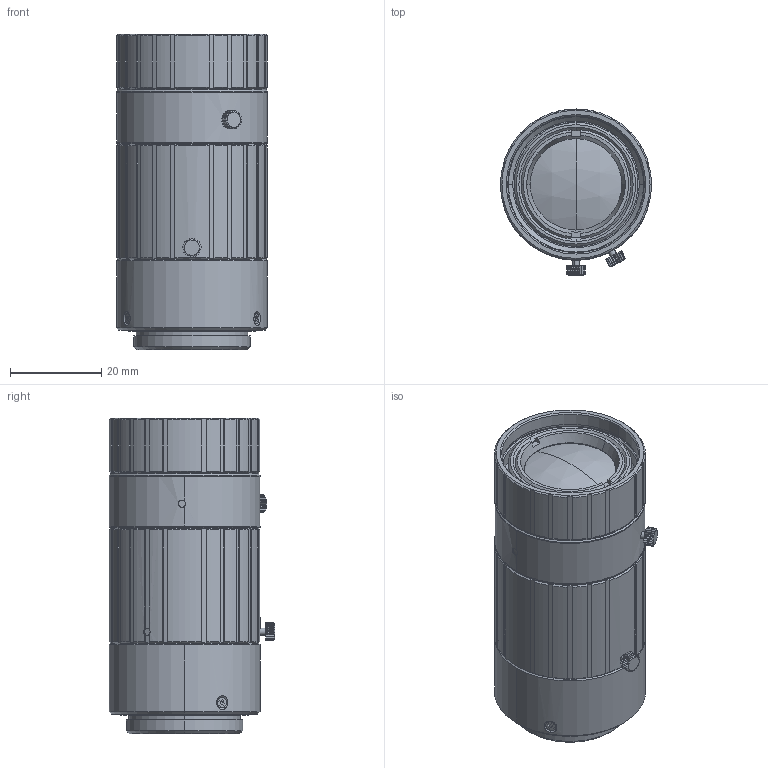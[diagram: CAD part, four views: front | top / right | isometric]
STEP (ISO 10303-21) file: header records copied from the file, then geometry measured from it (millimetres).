
FILE_DESCRIPTION (( 'STEP AP203' ), '1' );
FILE_NAME ('HF50XA-5M_3D_Outline.STEP', '2017-12-20T07:49:17', ( 'SW_admin' ), ( '' ), 'SwSTEP 2.0', 'SolidWorks 2017', '' );
FILE_SCHEMA (( 'CONFIG_CONTROL_DESIGN' ));
Length unit declared in the file: millimetre
Products named in the file (1): HF50XA-5M_3D_Outline
Bounding box: 33 x 36.25 x 68.97 mm (x, y, z)
Volume: 52875.6 mm3; surface area: 10835.1 mm2
Topology: 1 solids, 1 shells, 492 faces, 1353 edges, 886 vertices
Faces by surface type: plane 279, cylinder 156, cone 55, sphere 2
Entity records: 16448 total; most frequent: CARTESIAN_POINT 4296, ORIENTED_EDGE 2702, DIRECTION 2307, EDGE_CURVE 1351, VERTEX_POINT 886, AXIS2_PLACEMENT_3D 843, VECTOR 621, LINE 621
